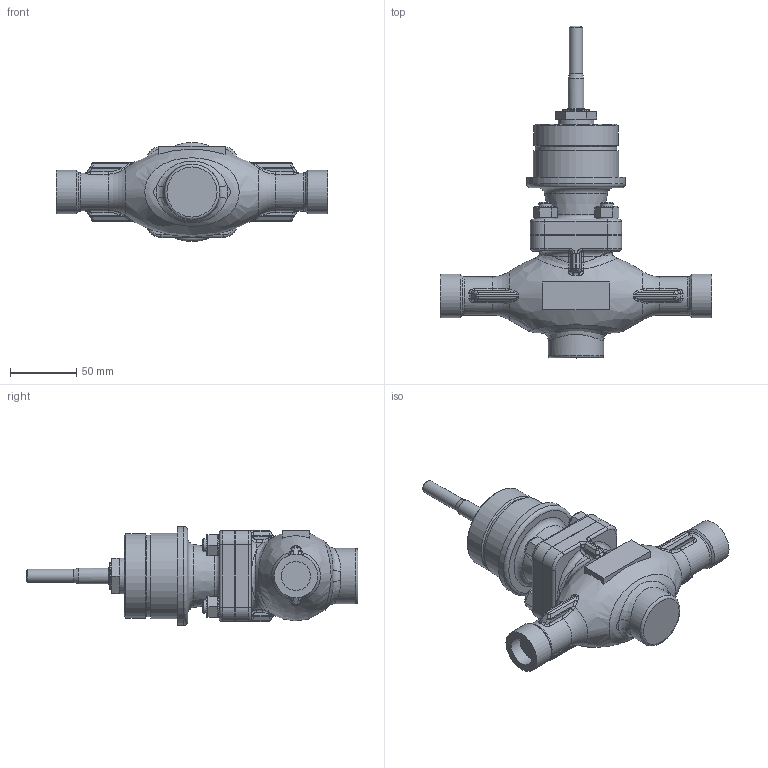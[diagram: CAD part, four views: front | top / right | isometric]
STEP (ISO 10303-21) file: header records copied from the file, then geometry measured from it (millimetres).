
FILE_DESCRIPTION(/* description */ (''),/* implementation_level */ '2;1');
FILE_NAME(/* name */ 'CV3xx_NPS_1_2_privarovaci_SW_CL300.stp',/* time_stamp */ '2017-05-05T07:59:42+02:00',/* author */ (''),/* organization */ (''),/* preprocessor_version */ 'ST-DEVELOPER v15',/* originating_system */ 'SIEMENS PLM Software NX 8.5',/* authorisation */ '');
FILE_SCHEMA (('AP203_CONFIGURATION_CONTROLLED_3D_DESIGN_OF_MECHANICAL_PARTS_AND_ASSEMBLIES_MIM_LF { 1 0 10303 403 2 1 2}'));
Length unit declared in the file: millimetre
Products named in the file (1): adam123C24F3gp5f
Bounding box: 206 x 251.47 x 75 mm (x, y, z)
Volume: 721449 mm3; surface area: 81000 mm2
Topology: 1 solids, 1 shells, 471 faces, 1071 edges, 610 vertices
Faces by surface type: cylinder 130, plane 116, bspline 94, cone 76, torus 31, sphere 24
Full cylindrical faces by diameter (mm): 10 x9, 11 x4, 12 x1, 14 x1, 16 x8, 18 x1, 21 x1, 22 x2, 27 x1, 29 x2, 33 x2, 42 x1, 48 x1, 61.6 x1, 64 x1, 65 x1, 75 x1
Entity records: 14626 total; most frequent: CARTESIAN_POINT 5307, ORIENTED_EDGE 1886, DIRECTION 1842, EDGE_CURVE 943, AXIS2_PLACEMENT_3D 804, EDGE_LOOP 576, VERTEX_POINT 571, ADVANCED_FACE 471
